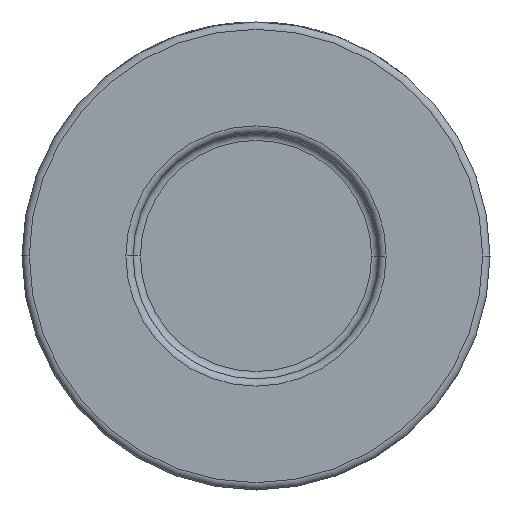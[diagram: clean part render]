
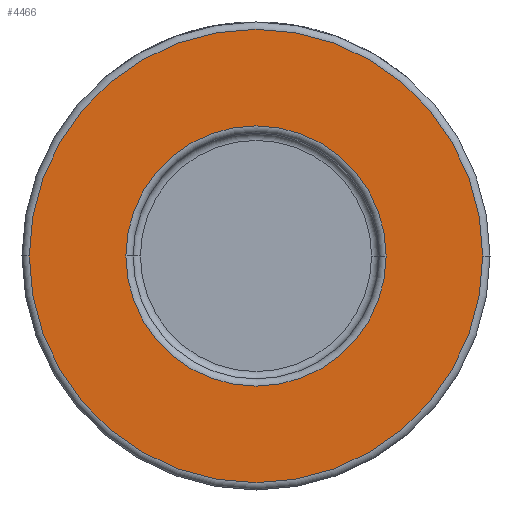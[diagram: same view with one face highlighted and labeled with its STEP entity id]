
A CAD part, front view. The second image highlights one B-rep face of the part: STEP entity #4466.
In plain terms, the highlighted planar face has unit normal (0, -1, 0).
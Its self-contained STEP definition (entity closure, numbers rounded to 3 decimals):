
#127 = CARTESIAN_POINT ( 'NONE',  ( 0., -22., 0. ) ) ;
#205 = DIRECTION ( 'NONE',  ( 1., 0., 0. ) ) ;
#284 = CARTESIAN_POINT ( 'NONE',  ( 32., -22., 0. ) ) ;
#308 = DIRECTION ( 'NONE',  ( 0., -1., 0. ) ) ;
#387 = CARTESIAN_POINT ( 'NONE',  ( -31., -22., 0. ) ) ;
#409 = ORIENTED_EDGE ( 'NONE', *, *, #1572, .T. ) ;
#416 = VERTEX_POINT ( 'NONE', #3309 ) ;
#529 = EDGE_CURVE ( 'NONE', #1320, #2881, #624, .T. ) ;
#624 = CIRCLE ( 'NONE', #1424, 31. ) ;
#650 = CARTESIAN_POINT ( 'NONE',  ( 0., -22., 0. ) ) ;
#742 = CIRCLE ( 'NONE', #2288, 17.8 ) ;
#794 = DIRECTION ( 'NONE',  ( 0., 1., 0. ) ) ;
#1114 = DIRECTION ( 'NONE',  ( 0., 1., 0. ) ) ;
#1320 = VERTEX_POINT ( 'NONE', #387 ) ;
#1335 = VERTEX_POINT ( 'NONE', #3588 ) ;
#1424 = AXIS2_PLACEMENT_3D ( 'NONE', #2921, #3361, #205 ) ;
#1491 = EDGE_CURVE ( 'NONE', #1335, #416, #742, .T. ) ;
#1554 = CARTESIAN_POINT ( 'NONE',  ( 0., -22., 0. ) ) ;
#1572 = EDGE_CURVE ( 'NONE', #416, #1335, #3829, .T. ) ;
#1583 = ORIENTED_EDGE ( 'NONE', *, *, #4532, .T. ) ;
#1618 = DIRECTION ( 'NONE',  ( 0., -1., 0. ) ) ;
#1663 = PLANE ( 'NONE',  #2068 ) ;
#1686 = FACE_OUTER_BOUND ( 'NONE', #3486, .T. ) ;
#1852 = AXIS2_PLACEMENT_3D ( 'NONE', #650, #308, #3804 ) ;
#1997 = AXIS2_PLACEMENT_3D ( 'NONE', #127, #1114, #2181 ) ;
#2068 = AXIS2_PLACEMENT_3D ( 'NONE', #284, #1618, #3088 ) ;
#2181 = DIRECTION ( 'NONE',  ( 1., 0., 0. ) ) ;
#2232 = ORIENTED_EDGE ( 'NONE', *, *, #1491, .T. ) ;
#2288 = AXIS2_PLACEMENT_3D ( 'NONE', #1554, #794, #3329 ) ;
#2660 = CIRCLE ( 'NONE', #1852, 31. ) ;
#2881 = VERTEX_POINT ( 'NONE', #3160 ) ;
#2921 = CARTESIAN_POINT ( 'NONE',  ( 0., -22., 0. ) ) ;
#3088 = DIRECTION ( 'NONE',  ( 1., 0., 0. ) ) ;
#3160 = CARTESIAN_POINT ( 'NONE',  ( 31., -22., 0. ) ) ;
#3309 = CARTESIAN_POINT ( 'NONE',  ( -17.8, -22., 0. ) ) ;
#3329 = DIRECTION ( 'NONE',  ( 1., 0., 0. ) ) ;
#3361 = DIRECTION ( 'NONE',  ( 0., -1., 0. ) ) ;
#3396 = FACE_BOUND ( 'NONE', #4130, .T. ) ;
#3486 = EDGE_LOOP ( 'NONE', ( #1583, #4185 ) ) ;
#3588 = CARTESIAN_POINT ( 'NONE',  ( 17.8, -22., 0. ) ) ;
#3804 = DIRECTION ( 'NONE',  ( 1., 0., 0. ) ) ;
#3829 = CIRCLE ( 'NONE', #1997, 17.8 ) ;
#4130 = EDGE_LOOP ( 'NONE', ( #2232, #409 ) ) ;
#4185 = ORIENTED_EDGE ( 'NONE', *, *, #529, .T. ) ;
#4466 = ADVANCED_FACE ( 'NONE', ( #3396, #1686 ), #1663, .T. ) ;
#4532 = EDGE_CURVE ( 'NONE', #2881, #1320, #2660, .T. ) ;
